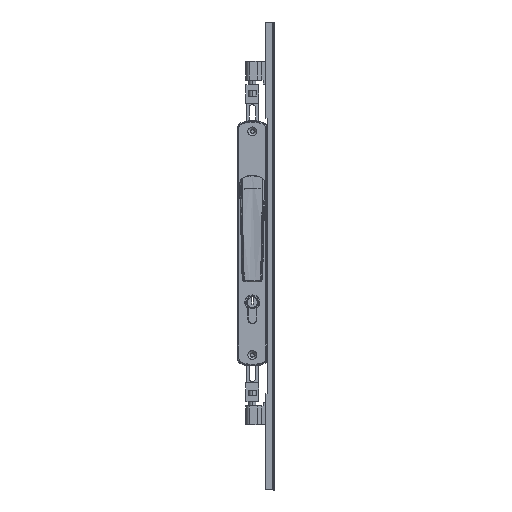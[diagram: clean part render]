
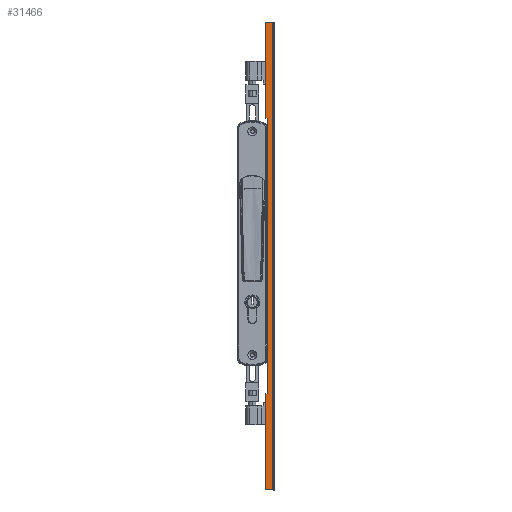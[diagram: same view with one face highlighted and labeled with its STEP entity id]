
A CAD part, top view. The second image highlights one B-rep face of the part: STEP entity #31466.
In plain terms, the highlighted planar face has unit normal (0, 0, 1) as drawn and (1, 0, 0) by its records, which use the part's own axes.
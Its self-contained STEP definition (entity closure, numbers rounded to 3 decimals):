
#1673 = LINE ( 'NONE', #30613, #9718 ) ;
#1734 = CARTESIAN_POINT ( 'NONE',  ( 19.3, 3.6, 112. ) ) ;
#1918 = DIRECTION ( 'NONE',  ( 1., 0., 0. ) ) ;
#2858 = EDGE_LOOP ( 'NONE', ( #17396, #8682, #41448, #25406, #47755, #11161, #35694, #38938 ) ) ;
#3664 = VERTEX_POINT ( 'NONE', #50989 ) ;
#3835 = CARTESIAN_POINT ( 'NONE',  ( 19.3, 1.6, 552.963 ) ) ;
#4653 = EDGE_CURVE ( 'NONE', #3664, #33349, #12198, .T. ) ;
#6252 = EDGE_CURVE ( 'NONE', #10447, #24726, #31330, .T. ) ;
#8044 = CARTESIAN_POINT ( 'NONE',  ( 19.3, 1.6, 544. ) ) ;
#8682 = ORIENTED_EDGE ( 'NONE', *, *, #22262, .T. ) ;
#9718 = VECTOR ( 'NONE', #46660, 1000. ) ;
#10447 = VERTEX_POINT ( 'NONE', #35097 ) ;
#10644 = LINE ( 'NONE', #47836, #48218 ) ;
#11161 = ORIENTED_EDGE ( 'NONE', *, *, #42094, .T. ) ;
#11674 = VERTEX_POINT ( 'NONE', #29951 ) ;
#11787 = DIRECTION ( 'NONE',  ( 0., -1., 0. ) ) ;
#12198 = LINE ( 'NONE', #45647, #43139 ) ;
#13469 = CARTESIAN_POINT ( 'NONE',  ( 19.3, 10.4, 552.963 ) ) ;
#14550 = VERTEX_POINT ( 'NONE', #38649 ) ;
#14921 = DIRECTION ( 'NONE',  ( 0., 0., -1. ) ) ;
#15994 = EDGE_CURVE ( 'NONE', #11674, #14550, #27865, .T. ) ;
#17396 = ORIENTED_EDGE ( 'NONE', *, *, #52988, .F. ) ;
#18284 = DIRECTION ( 'NONE',  ( 0., 0., -1. ) ) ;
#19294 = DIRECTION ( 'NONE',  ( 0., -1., 0. ) ) ;
#20194 = DIRECTION ( 'NONE',  ( 0., 0., -1. ) ) ;
#22262 = EDGE_CURVE ( 'NONE', #40026, #33349, #24211, .T. ) ;
#23634 = CARTESIAN_POINT ( 'NONE',  ( 19.3, 1.6, 0. ) ) ;
#24211 = LINE ( 'NONE', #3835, #50209 ) ;
#24726 = VERTEX_POINT ( 'NONE', #8044 ) ;
#25321 = DIRECTION ( 'NONE',  ( 0., -1., 0. ) ) ;
#25406 = ORIENTED_EDGE ( 'NONE', *, *, #41705, .F. ) ;
#26577 = FACE_OUTER_BOUND ( 'NONE', #2858, .T. ) ;
#26770 = VERTEX_POINT ( 'NONE', #1734 ) ;
#27237 = DIRECTION ( 'NONE',  ( 0., 1., 0. ) ) ;
#27865 = LINE ( 'NONE', #44145, #31967 ) ;
#29032 = EDGE_CURVE ( 'NONE', #26770, #11674, #34141, .T. ) ;
#29951 = CARTESIAN_POINT ( 'NONE',  ( 19.3, 3.6, 432. ) ) ;
#30613 = CARTESIAN_POINT ( 'NONE',  ( 19.3, 10.4, 552.963 ) ) ;
#31330 = LINE ( 'NONE', #52204, #45134 ) ;
#31466 = ADVANCED_FACE ( 'NONE', ( #26577 ), #50678, .T. ) ;
#31967 = VECTOR ( 'NONE', #11787, 1000. ) ;
#33349 = VERTEX_POINT ( 'NONE', #23634 ) ;
#34141 = LINE ( 'NONE', #51277, #37623 ) ;
#34995 = LINE ( 'NONE', #51337, #44647 ) ;
#35097 = CARTESIAN_POINT ( 'NONE',  ( 19.3, 10.4, 544. ) ) ;
#35694 = ORIENTED_EDGE ( 'NONE', *, *, #15994, .F. ) ;
#37623 = VECTOR ( 'NONE', #46993, 1000. ) ;
#38649 = CARTESIAN_POINT ( 'NONE',  ( 19.3, 1.6, 432. ) ) ;
#38938 = ORIENTED_EDGE ( 'NONE', *, *, #29032, .F. ) ;
#39691 = CARTESIAN_POINT ( 'NONE',  ( 19.3, 1.6, 112. ) ) ;
#40026 = VERTEX_POINT ( 'NONE', #39691 ) ;
#41448 = ORIENTED_EDGE ( 'NONE', *, *, #4653, .F. ) ;
#41705 = EDGE_CURVE ( 'NONE', #10447, #3664, #1673, .T. ) ;
#42094 = EDGE_CURVE ( 'NONE', #24726, #14550, #10644, .T. ) ;
#43139 = VECTOR ( 'NONE', #25321, 1000. ) ;
#44145 = CARTESIAN_POINT ( 'NONE',  ( 19.3, 10.4, 432. ) ) ;
#44530 = AXIS2_PLACEMENT_3D ( 'NONE', #13469, #1918, #18284 ) ;
#44647 = VECTOR ( 'NONE', #27237, 1000. ) ;
#45134 = VECTOR ( 'NONE', #19294, 1000. ) ;
#45647 = CARTESIAN_POINT ( 'NONE',  ( 19.3, 10.4, 0. ) ) ;
#46660 = DIRECTION ( 'NONE',  ( 0., 0., -1. ) ) ;
#46993 = DIRECTION ( 'NONE',  ( 0., 0., 1. ) ) ;
#47755 = ORIENTED_EDGE ( 'NONE', *, *, #6252, .T. ) ;
#47836 = CARTESIAN_POINT ( 'NONE',  ( 19.3, 1.6, 552.963 ) ) ;
#48218 = VECTOR ( 'NONE', #14921, 1000. ) ;
#50209 = VECTOR ( 'NONE', #20194, 1000. ) ;
#50678 = PLANE ( 'NONE',  #44530 ) ;
#50989 = CARTESIAN_POINT ( 'NONE',  ( 19.3, 10.4, 0. ) ) ;
#51277 = CARTESIAN_POINT ( 'NONE',  ( 19.3, 3.6, 552.963 ) ) ;
#51337 = CARTESIAN_POINT ( 'NONE',  ( 19.3, 10.4, 112. ) ) ;
#52204 = CARTESIAN_POINT ( 'NONE',  ( 19.3, 10.4, 544. ) ) ;
#52988 = EDGE_CURVE ( 'NONE', #40026, #26770, #34995, .T. ) ;
